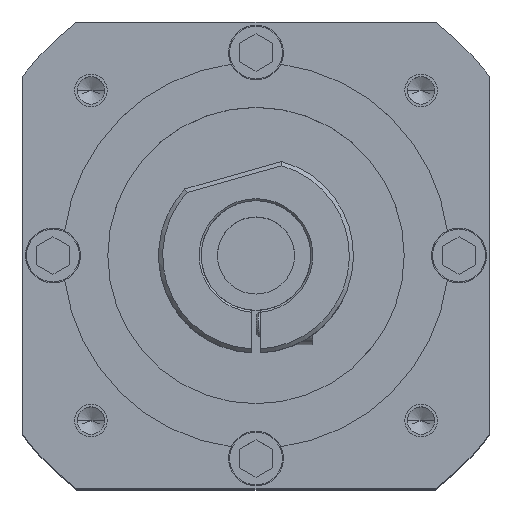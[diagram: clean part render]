
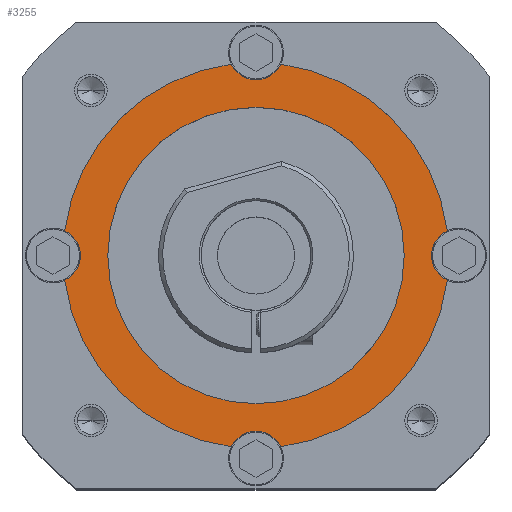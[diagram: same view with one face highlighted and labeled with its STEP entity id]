
A CAD part, top view. The second image highlights one B-rep face of the part: STEP entity #3255.
In plain terms, the highlighted planar face has unit normal (0, 0, 1).
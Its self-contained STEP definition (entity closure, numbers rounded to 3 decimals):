
#947=CARTESIAN_POINT('',(0.,0.,43.8));
#948=DIRECTION('',(0.,0.,1.));
#949=DIRECTION('',(1.,0.,0.));
#950=AXIS2_PLACEMENT_3D('',#947,#948,#949);
#952=CARTESIAN_POINT('',(0.,0.,43.8));
#953=DIRECTION('',(0.,0.,1.));
#954=DIRECTION('',(-1.,0.,0.));
#955=AXIS2_PLACEMENT_3D('',#952,#953,#954);
#957=CARTESIAN_POINT('',(0.,50.,43.8));
#958=DIRECTION('',(0.,0.,-1.));
#959=DIRECTION('',(0.903,-0.429,0.));
#960=AXIS2_PLACEMENT_3D('',#957,#958,#959);
#962=CARTESIAN_POINT('',(50.,0.,43.8));
#963=DIRECTION('',(0.,0.,-1.));
#964=DIRECTION('',(-1.,0.,0.));
#965=AXIS2_PLACEMENT_3D('',#962,#963,#964);
#967=CARTESIAN_POINT('',(50.,0.,43.8));
#968=DIRECTION('',(0.,0.,-1.));
#969=DIRECTION('',(-0.429,-0.903,0.));
#970=AXIS2_PLACEMENT_3D('',#967,#968,#969);
#972=CARTESIAN_POINT('',(0.,-50.,43.8));
#973=DIRECTION('',(0.,0.,-1.));
#974=DIRECTION('',(-0.903,0.429,0.));
#975=AXIS2_PLACEMENT_3D('',#972,#973,#974);
#977=CARTESIAN_POINT('',(-50.,0.,43.8));
#978=DIRECTION('',(0.,0.,-1.));
#979=DIRECTION('',(1.,0.,0.));
#980=AXIS2_PLACEMENT_3D('',#977,#978,#979);
#982=CARTESIAN_POINT('',(-50.,0.,43.8));
#983=DIRECTION('',(0.,0.,-1.));
#984=DIRECTION('',(0.429,0.903,0.));
#985=AXIS2_PLACEMENT_3D('',#982,#983,#984);
#1026=CARTESIAN_POINT('',(0.,0.,43.8));
#1027=DIRECTION('',(0.,0.,1.));
#1028=DIRECTION('',(-0.992,-0.128,0.));
#1029=AXIS2_PLACEMENT_3D('',#1026,#1027,#1028);
#1044=CARTESIAN_POINT('',(0.,0.,43.8));
#1045=DIRECTION('',(0.,0.,1.));
#1046=DIRECTION('',(0.128,-0.992,0.));
#1047=AXIS2_PLACEMENT_3D('',#1044,#1045,#1046);
#1062=CARTESIAN_POINT('',(0.,0.,43.8));
#1063=DIRECTION('',(0.,0.,1.));
#1064=DIRECTION('',(0.992,0.128,0.));
#1065=AXIS2_PLACEMENT_3D('',#1062,#1063,#1064);
#1071=CARTESIAN_POINT('',(0.,0.,43.8));
#1072=DIRECTION('',(0.,0.,1.));
#1073=DIRECTION('',(-0.128,0.992,0.));
#1074=AXIS2_PLACEMENT_3D('',#1071,#1072,#1073);
#1749=CARTESIAN_POINT('',(36.5,0.,43.8));
#1750=VERTEX_POINT('',#1749);
#1751=CARTESIAN_POINT('',(-36.5,0.,43.8));
#1752=VERTEX_POINT('',#1751);
#1843=CARTESIAN_POINT('',(-43.25,0.,43.8));
#1844=VERTEX_POINT('',#1843);
#1881=CARTESIAN_POINT('',(43.25,0.,43.8));
#1882=VERTEX_POINT('',#1881);
#1909=CARTESIAN_POINT('',(-47.107,6.099,43.8));
#1910=VERTEX_POINT('',#1909);
#1911=CARTESIAN_POINT('',(-47.107,-6.099,43.8));
#1912=VERTEX_POINT('',#1911);
#1915=CARTESIAN_POINT('',(-6.099,-47.107,43.8));
#1916=CARTESIAN_POINT('',(6.099,-47.107,43.8));
#1917=VERTEX_POINT('',#1915);
#1918=VERTEX_POINT('',#1916);
#1919=CARTESIAN_POINT('',(47.107,6.099,43.8));
#1920=VERTEX_POINT('',#1919);
#1921=CARTESIAN_POINT('',(47.107,-6.099,43.8));
#1922=VERTEX_POINT('',#1921);
#1925=CARTESIAN_POINT('',(6.099,47.107,43.8));
#1926=CARTESIAN_POINT('',(-6.099,47.107,43.8));
#1927=VERTEX_POINT('',#1925);
#1928=VERTEX_POINT('',#1926);
#3224=CARTESIAN_POINT('',(0.,0.,43.8));
#3225=DIRECTION('',(0.,0.,1.));
#3226=DIRECTION('',(1.,0.,0.));
#3227=AXIS2_PLACEMENT_3D('',#3224,#3225,#3226);
#3228=PLANE('',#3227);
#3230=ORIENTED_EDGE('',*,*,#3229,.F.);
#3232=ORIENTED_EDGE('',*,*,#3231,.F.);
#3234=ORIENTED_EDGE('',*,*,#3233,.F.);
#3236=ORIENTED_EDGE('',*,*,#3235,.F.);
#3238=ORIENTED_EDGE('',*,*,#3237,.F.);
#3240=ORIENTED_EDGE('',*,*,#3239,.F.);
#3242=ORIENTED_EDGE('',*,*,#3241,.F.);
#3244=ORIENTED_EDGE('',*,*,#3243,.F.);
#3246=ORIENTED_EDGE('',*,*,#3245,.F.);
#3248=ORIENTED_EDGE('',*,*,#3247,.F.);
#3249=EDGE_LOOP('',(#3230,#3232,#3234,#3236,#3238,#3240,#3242,#3244,#3246,
#3248));
#3250=FACE_OUTER_BOUND('',#3249,.F.);
#3251=ORIENTED_EDGE('',*,*,#3171,.T.);
#3252=ORIENTED_EDGE('',*,*,#3149,.T.);
#3253=EDGE_LOOP('',(#3251,#3252));
#3254=FACE_BOUND('',#3253,.F.);
#3255=ADVANCED_FACE('',(#3250,#3254),#3228,.T.);
#951=CIRCLE('',#950,36.5);
#956=CIRCLE('',#955,36.5);
#961=CIRCLE('',#960,6.75);
#966=CIRCLE('',#965,6.75);
#971=CIRCLE('',#970,6.75);
#976=CIRCLE('',#975,6.75);
#981=CIRCLE('',#980,6.75);
#986=CIRCLE('',#985,6.75);
#1030=CIRCLE('',#1029,47.5);
#1048=CIRCLE('',#1047,47.5);
#1066=CIRCLE('',#1065,47.5);
#1075=CIRCLE('',#1074,47.5);
#3149=EDGE_CURVE('',#1752,#1750,#956,.T.);
#3171=EDGE_CURVE('',#1750,#1752,#951,.T.);
#3229=EDGE_CURVE('',#1927,#1928,#961,.T.);
#3231=EDGE_CURVE('',#1920,#1927,#1066,.T.);
#3233=EDGE_CURVE('',#1882,#1920,#966,.T.);
#3235=EDGE_CURVE('',#1922,#1882,#971,.T.);
#3237=EDGE_CURVE('',#1918,#1922,#1048,.T.);
#3239=EDGE_CURVE('',#1917,#1918,#976,.T.);
#3241=EDGE_CURVE('',#1912,#1917,#1030,.T.);
#3243=EDGE_CURVE('',#1844,#1912,#981,.T.);
#3245=EDGE_CURVE('',#1910,#1844,#986,.T.);
#3247=EDGE_CURVE('',#1928,#1910,#1075,.T.);
